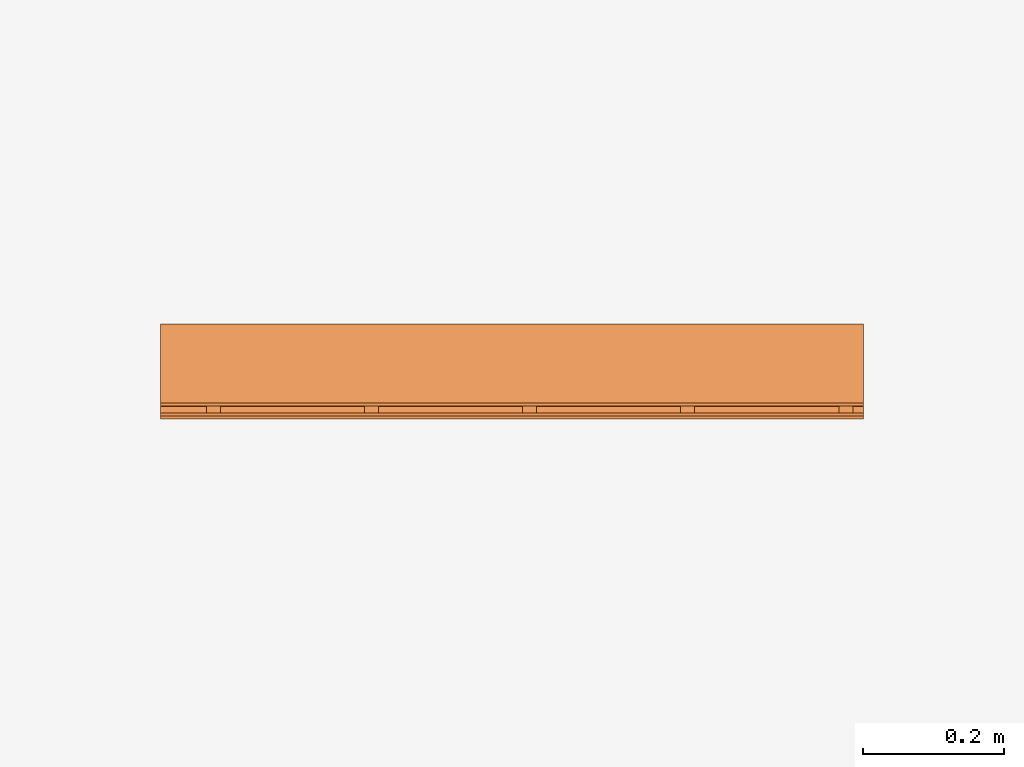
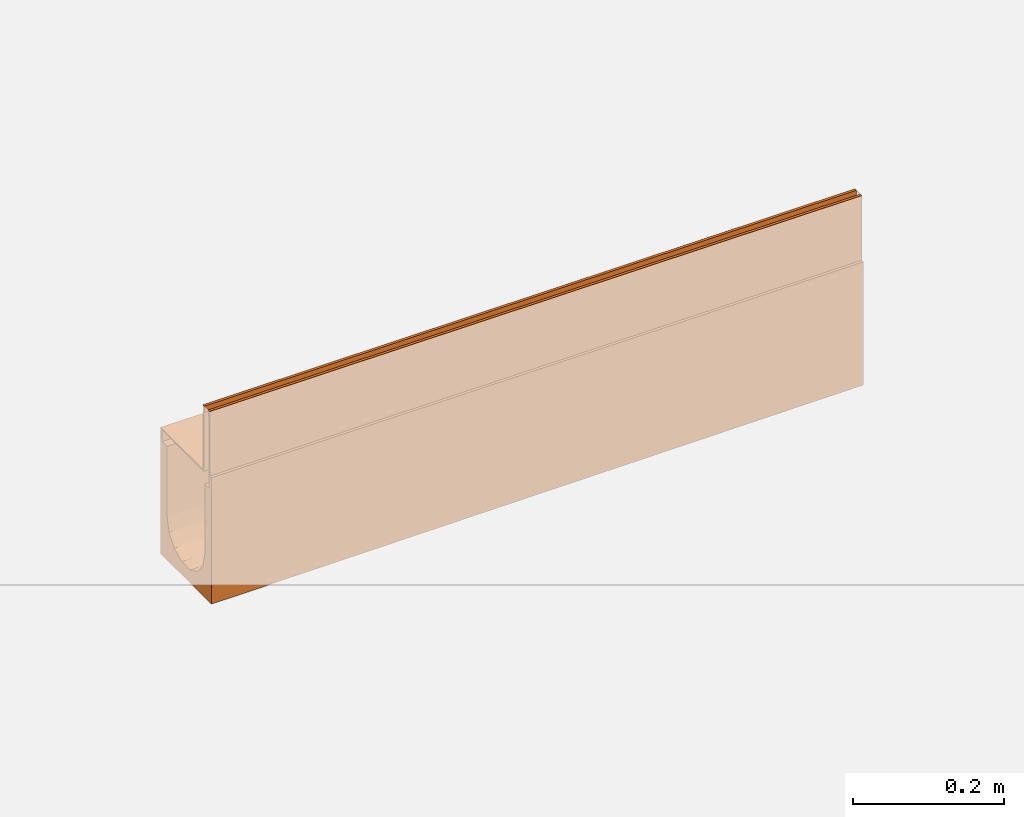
# One storey, part 2 of 2: 1 proxy.
"""IFC2X3 building model written with IfcOpenShell, lengths in millimetres."""

from ifc_helpers import new_model, entity, si_unit, converted_unit, direction, frame, origin, place, context, subcontext, project, spatial, faceted_brep, source, transform, mapped, material, material_list, element, save


model = new_model("IFC2X3")

# Units and contexts
model_context = context("Model", 3, precision=1e-06, world=origin(), true_north=direction((2.0, 6.12303176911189e-17, 1.0)))
context_of_model = context(None, 3, precision=1e-06, world=origin(), true_north=direction((2.0, 6.12303176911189e-17, 1.0)))
body_context = subcontext(model_context, "Body", "Model", "MODEL_VIEW")
ifc_project = project(units=[si_unit("LENGTHUNIT", "METRE", prefix="MILLI"), si_unit("AREAUNIT", "SQUARE_METRE", prefix="MILLI"), si_unit("VOLUMEUNIT", "CUBIC_METRE", prefix="MILLI"), converted_unit("PLANEANGLEUNIT", "DEGREE", entity("IfcRatioMeasure", 0.0174532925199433), si_unit("PLANEANGLEUNIT", "RADIAN"), dimensions=[0, 0, 0, 0, 0, 0, 0]), si_unit("TIMEUNIT", "SECOND")], contexts=[model_context, context_of_model])

# Site, building, storey
site_placement = place(None, origin())
site = spatial("IfcSite", under=ifc_project, at=site_placement, Name="Default", CompositionType="ELEMENT")
building_placement = place(site_placement, origin())
building = spatial("IfcBuilding", under=site, at=building_placement, CompositionType="ELEMENT")
storey_placement = place(building_placement, origin())
storey = spatial("IfcBuildingStorey", under=building, at=storey_placement, Name="Level 1", CompositionType="ELEMENT", Elevation=0.0)

# Proxy
ifc_material_1 = material(Name="Steel, Galvanized")
ifc_material_2 = material(Name="Vienite® Synthetic Resin Concrete")
ifc_material_list = material_list([ifc_material_1, ifc_material_2])
shared_shape = source(origin(), body_context, "Body", "Brep", [
    faceted_brep([(63.249999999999, 15.0, -107.0), (63.249999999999, 17.0, -109.0), (63.249999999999, 33.0, -109.0), (63.249999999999, 35.0, -107.0), (63.249999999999, 17.0, -123.499999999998), (63.249999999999, 15.0, -125.499999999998), (63.249999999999, 33.0, -123.499999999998), (63.249999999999, 35.0, -125.499999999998), (-61.250000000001, 15.0, -125.499999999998), (-61.250000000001, 17.0, -123.499999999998), (-61.250000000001, 33.0, -123.499999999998), (-61.250000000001, 35.0, -125.499999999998), (-61.250000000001, 17.0, -109.0), (-61.250000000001, 15.0, -107.0), (-61.250000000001, 33.0, -109.0), (-61.250000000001, 35.0, -107.0)], [[[0, 1, 2, 3]], [[4, 1, 0, 5]], [[3, 2, 6, 7]], [[6, 4, 5, 7]], [[8, 9, 10, 11]], [[12, 9, 8, 13]], [[11, 10, 14, 15]], [[14, 12, 13, 15]], [[5, 0, 13, 8]], [[7, 5, 8, 11]], [[3, 7, 11, 15]], [[0, 3, 15, 13]], [[1, 4, 9, 12]], [[14, 2, 1, 12]], [[6, 2, 14, 10]], [[9, 4, 6, 10]]]),
    faceted_brep([(-47.2500000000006, 0.0, -10.0), (-47.2500000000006, 0.0, -107.0), (-45.2500000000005, 0.0, -105.0), (-45.2500000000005, 0.0, 0.0), (-49.2500000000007, 0.0, 0.0), (-49.2500000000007, 0.0, -10.0), (63.2499999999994, 0.0, -107.0), (63.2499999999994, 0.0, -105.0), (-45.2500000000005, 1000.0, -105.0), (63.2499999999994, 1000.0, -105.0), (63.2499999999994, 1000.0, -107.0), (-47.2500000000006, 1000.0, -107.0), (-47.2500000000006, 1000.0, -10.0), (-45.2500000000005, 1000.0, 0.0), (-49.2500000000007, 1000.0, -10.0), (-49.2500000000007, 1000.0, 0.0)], [[[0, 1, 2, 3]], [[4, 5, 0, 3]], [[6, 7, 2, 1]], [[8, 9, 10, 11]], [[12, 13, 8, 11]], [[12, 14, 15, 13]], [[0, 5, 14, 12]], [[11, 1, 0, 12]], [[6, 1, 11, 10]], [[9, 7, 6, 10]], [[8, 2, 7, 9]], [[3, 2, 8, 13]], [[15, 4, 3, 13]], [[5, 4, 15, 14]]]),
    faceted_brep([(-59.2500000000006, 1000.0, 0.0), (-59.2500000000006, 1000.0, -10.0), (-61.2500000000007, 1000.0, -10.0), (-63.2500000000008, 1000.0, 0.0), (-63.2500000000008, 1000.0, -125.499999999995), (-61.2500000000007, 1000.0, -125.499999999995), (-61.2500000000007, 0.0, -10.0), (-63.2500000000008, 0.0, 0.0), (-63.2500000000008, 0.0, -125.499999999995), (-61.2500000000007, 0.0, -125.499999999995), (-59.2500000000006, 0.0, 0.0), (-59.2500000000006, 0.0, -10.0)], [[[0, 1, 2, 3]], [[4, 3, 2, 5]], [[6, 7, 8, 9]], [[10, 7, 6, 11]], [[9, 8, 4, 5]], [[6, 9, 5, 2]], [[11, 6, 2, 1]], [[10, 11, 1, 0]], [[3, 7, 10, 0]], [[4, 8, 7, 3]]]),
    faceted_brep([(63.2499999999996, 465.0, -107.0), (63.2499999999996, 467.0, -109.0), (63.2499999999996, 483.0, -109.0), (63.2499999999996, 485.0, -107.0), (63.2499999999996, 467.0, -123.499999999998), (63.2499999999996, 465.0, -125.499999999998), (63.2499999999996, 483.0, -123.499999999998), (63.2499999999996, 485.0, -125.499999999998), (-61.2500000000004, 465.0, -125.499999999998), (-61.2500000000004, 467.0, -123.499999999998), (-61.2500000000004, 483.0, -123.499999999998), (-61.2500000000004, 485.0, -125.499999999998), (-61.2500000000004, 467.0, -109.0), (-61.2500000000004, 465.0, -107.0), (-61.2500000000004, 483.0, -109.0), (-61.2500000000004, 485.0, -107.0)], [[[0, 1, 2, 3]], [[4, 1, 0, 5]], [[3, 2, 6, 7]], [[6, 4, 5, 7]], [[8, 9, 10, 11]], [[12, 9, 8, 13]], [[11, 10, 14, 15]], [[14, 12, 13, 15]], [[5, 0, 13, 8]], [[7, 5, 8, 11]], [[3, 7, 11, 15]], [[0, 3, 15, 13]], [[1, 4, 9, 12]], [[2, 1, 12, 14]], [[6, 2, 14, 10]], [[4, 6, 10, 9]]]),
    faceted_brep([(63.2499999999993, 240.0, -107.0), (63.2499999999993, 242.0, -109.0), (63.2499999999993, 258.0, -109.0), (63.2499999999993, 260.0, -107.0), (63.2499999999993, 242.0, -123.499999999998), (63.2499999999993, 240.0, -125.499999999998), (63.2499999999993, 258.0, -123.499999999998), (63.2499999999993, 260.0, -125.499999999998), (-61.2500000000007, 240.0, -125.499999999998), (-61.2500000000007, 242.0, -123.499999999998), (-61.2500000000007, 258.0, -123.499999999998), (-61.2500000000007, 260.0, -125.499999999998), (-61.2500000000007, 242.0, -109.0), (-61.2500000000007, 240.0, -107.0), (-61.2500000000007, 258.0, -109.0), (-61.2500000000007, 260.0, -107.0)], [[[0, 1, 2, 3]], [[4, 1, 0, 5]], [[3, 2, 6, 7]], [[6, 4, 5, 7]], [[8, 9, 10, 11]], [[12, 9, 8, 13]], [[11, 10, 14, 15]], [[14, 12, 13, 15]], [[5, 0, 13, 8]], [[7, 5, 8, 11]], [[3, 7, 11, 15]], [[0, 3, 15, 13]], [[1, 4, 9, 12]], [[2, 1, 12, 14]], [[6, 2, 14, 10]], [[4, 6, 10, 9]]]),
    faceted_brep([(63.2500000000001, 915.0, -107.0), (63.2500000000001, 917.0, -109.0), (63.2500000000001, 933.0, -109.0), (63.2500000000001, 935.0, -107.0), (63.2500000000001, 917.0, -123.499999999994), (63.2500000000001, 915.0, -125.499999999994), (63.2500000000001, 933.0, -123.499999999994), (63.2500000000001, 935.0, -125.499999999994), (-61.2499999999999, 915.0, -125.499999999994), (-61.2499999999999, 917.0, -123.499999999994), (-61.2499999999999, 933.0, -123.499999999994), (-61.2499999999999, 935.0, -125.499999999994), (-61.2499999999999, 917.0, -109.0), (-61.2499999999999, 915.0, -107.0), (-61.2499999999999, 933.0, -109.0), (-61.2499999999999, 935.0, -107.0)], [[[0, 1, 2, 3]], [[4, 1, 0, 5]], [[3, 2, 6, 7]], [[6, 4, 5, 7]], [[8, 9, 10, 11]], [[12, 9, 8, 13]], [[11, 10, 14, 15]], [[14, 12, 13, 15]], [[5, 0, 13, 8]], [[11, 7, 5, 8]], [[3, 7, 11, 15]], [[13, 0, 3, 15]], [[1, 4, 9, 12]], [[2, 1, 12, 14]], [[6, 2, 14, 10]], [[4, 6, 10, 9]]]),
    faceted_brep([(63.2499999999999, 690.0, -107.0), (63.2499999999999, 692.0, -109.0), (63.2499999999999, 708.0, -109.0), (63.2499999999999, 710.0, -107.0), (63.2499999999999, 692.0, -123.499999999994), (63.2499999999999, 690.0, -125.499999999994), (63.2499999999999, 708.0, -123.499999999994), (63.2499999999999, 710.0, -125.499999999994), (-61.2500000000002, 690.0, -125.499999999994), (-61.2500000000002, 692.0, -123.499999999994), (-61.2500000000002, 708.0, -123.499999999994), (-61.2500000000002, 710.0, -125.499999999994), (-61.2500000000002, 692.0, -109.0), (-61.2500000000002, 690.0, -107.0), (-61.2500000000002, 708.0, -109.0), (-61.2500000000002, 710.0, -107.0)], [[[0, 1, 2, 3]], [[4, 1, 0, 5]], [[3, 2, 6, 7]], [[6, 4, 5, 7]], [[8, 9, 10, 11]], [[12, 9, 8, 13]], [[11, 10, 14, 15]], [[14, 12, 13, 15]], [[5, 0, 13, 8]], [[11, 7, 5, 8]], [[3, 7, 11, 15]], [[13, 0, 3, 15]], [[1, 4, 9, 12]], [[2, 1, 12, 14]], [[6, 2, 14, 10]], [[4, 6, 10, 9]]]),
    faceted_brep([(-67.4999999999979, 1000.0, -105.0), (-63.2499999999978, 1000.0, -105.0), (-63.2499999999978, 1000.0, -125.500000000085), (-67.4999999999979, 1000.0, -310.0), (-50.0, 1000.0, -125.500000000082), (-50.0, 1000.0, -240.0), (-47.5242216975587, 1000.0, -250.847093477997), (-45.0484433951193, 1000.0, -261.694186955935), (-31.1744900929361, 1000.0, -279.091574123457), (-21.1502683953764, 1000.0, -283.918984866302), (-11.1260466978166, 1000.0, -288.746395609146), (-38.1114667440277, 1000.0, -270.392880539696), (0.0, 1000.0, -288.746395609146), (11.126046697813, 1000.0, -288.746395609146), (50.0, 1000.0, -240.0), (50.0, 1000.0, -125.500000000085), (63.249999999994, 1000.0, -125.500000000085), (67.500000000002, 1000.0, -310.0), (63.249999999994, 1000.0, -105.0), (67.500000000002, 1000.0, -105.0), (21.1502683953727, 1000.0, -283.918984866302), (31.1744900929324, 1000.0, -279.091574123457), (45.0484433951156, 1000.0, -261.694186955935), (47.5242216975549, 1000.0, -250.847093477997), (38.111466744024, 1000.0, -270.392880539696), (-67.5000000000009, 0.0, -305.0), (-45.0484433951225, 0.0, -256.694186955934), (-46.5542373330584, 0.0, -250.096872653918), (-50.0, 0.0, -235.0), (-31.1744900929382, 0.0, -274.091574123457), (-38.1114667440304, 0.0, -265.392880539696), (-11.1260466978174, 0.0, -283.746395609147), (-21.1502683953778, 0.0, -278.918984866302), (11.1260466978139, 0.0, -283.746395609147), (0.0, 0.0, -283.746395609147), (67.4999999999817, 0.0, -305.0), (-63.2499999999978, 0.0, -125.500000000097), (-63.2499999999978, 0.0, -105.0), (-67.5000000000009, 0.0, -105.0), (-50.0, 0.0, -125.500000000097), (31.1744900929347, 0.0, -274.091574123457), (21.1502683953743, 0.0, -278.918984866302), (50.0, 0.0, -235.0), (46.5542371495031, 0.0, -250.09687345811), (45.0484433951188, 0.0, -256.694186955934), (38.1114667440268, 0.0, -265.392880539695), (63.2500000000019, 0.0, -125.500000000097), (50.0, 0.0, -125.500000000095), (67.4999999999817, 0.0, -105.0), (63.2500000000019, 0.0, -105.0), (-50.0, 250.000013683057, -236.250000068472), (-35.5430016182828, 477.55479373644, -272.554449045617), (-39.0915746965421, 301.904841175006, -267.684013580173), (-30.4065854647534, 315.866317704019, -276.271138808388), (39.0915767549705, 653.204744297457, -269.440510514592), (43.1307072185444, 488.864082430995, -262.737443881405), (44.2106003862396, 635.514288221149, -261.531860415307), (-39.0915747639, 653.204746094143, -269.440513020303), (-29.696093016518, 646.565597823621, -278.458964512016), (-47.3876306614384, 374.999991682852, -252.825312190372), (-48.89171460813, 518.387005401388, -248.060948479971), (-2.91588081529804e-06, 301.904832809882, -286.509524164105), (-10.9684170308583, 305.042894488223, -285.30732008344), (-5.5982252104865, 150.952413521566, -285.440372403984), (12.0741057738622, 315.866299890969, -285.099594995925), (5.33371147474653, 477.554791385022, -287.102475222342), (35.3553400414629, 150.952387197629, -271.110100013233), (-41.8233658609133, 146.584549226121, -263.133763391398), (42.1728888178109, 829.135588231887, -266.005451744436), (47.0016510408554, 843.632235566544, -256.272333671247), (-50.0, 749.999986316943, -238.749999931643), (-47.0016499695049, 843.632222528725, -256.272336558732), (-21.6941880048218, 209.065851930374, -281.093772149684), (-35.3553394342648, 150.952420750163, -271.110100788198), (-34.4525207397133, 816.145858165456, -275.316399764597), (-25.646806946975, 806.214865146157, -281.952412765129), (21.6941814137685, 500.0, -282.548446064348), (29.6960925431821, 646.565642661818, -278.458965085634), (16.1554098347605, 747.818208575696, -286.057192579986), (-3.27550310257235e-06, 653.204751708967, -288.2660237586), (-8.54111809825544, 477.617179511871, -286.653178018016), (21.6941852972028, 209.065841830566, -281.093773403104), (-46.4228776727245, 186.188946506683, -254.502870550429), (34.4525215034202, 816.145876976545, -275.316399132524), (49.2918467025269, 134.881431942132, -244.059742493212), (47.3876313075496, 374.999975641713, -252.825310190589), (46.4228780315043, 186.188933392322, -254.502869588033), (-50.0, 499.999972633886, -237.499999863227), (39.0915763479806, 301.904795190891, -267.684011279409), (41.8233665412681, 146.584526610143, -263.133762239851), (25.6468067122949, 806.214870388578, -281.952412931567), (-5.38536224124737, 826.602379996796, -288.842144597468), (-16.1554121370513, 747.81816965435, -286.05719159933), (35.5430053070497, 477.554758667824, -272.554445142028), (-42.1728873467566, 829.135597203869, -266.005454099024), (5.59822218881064, 150.952412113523, -285.440372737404), (30.4065855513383, 315.866251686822, -276.271138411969), (-43.1307054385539, 488.864104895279, -262.737447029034), (-44.2105988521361, 635.514296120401, -261.531863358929), (-49.2918465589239, 134.881438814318, -244.059743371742), (-47.7236140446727, 671.453379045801, -253.272248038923), (48.8917149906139, 518.386993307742, -248.060946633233), (50.0, 250.000027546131, -236.250000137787), (50.0, 499.999944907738, -237.499999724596), (50.0, 749.999972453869, -238.749999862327), (47.7236147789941, 671.453375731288, -253.272245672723), (-22.9273943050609, 354.532924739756, -281.206149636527), (-21.6941890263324, 500.0, -282.548442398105), (5.80423086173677, 807.818012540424, -288.701056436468), (22.9273914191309, 354.532889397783, -281.206150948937)], [[[0, 1, 2, 3]], [[2, 4, 5, 3]], [[3, 5, 6, 7]], [[3, 8, 9, 10]], [[3, 7, 11, 8]], [[3, 10, 12, 13]], [[14, 15, 16, 17]], [[16, 18, 19, 17]], [[17, 13, 20, 21]], [[17, 22, 23, 14]], [[17, 21, 24, 22]], [[13, 17, 3]], [[25, 26, 27, 28]], [[25, 29, 30, 26]], [[25, 31, 32, 29]], [[33, 34, 25, 35]], [[36, 37, 38, 25]], [[28, 39, 36, 25]], [[35, 40, 41, 33]], [[35, 42, 43, 44]], [[35, 44, 45, 40]], [[46, 47, 42, 35]], [[48, 49, 46, 35]], [[1, 37, 36, 2]], [[0, 38, 37, 1]], [[0, 3, 25, 38]], [[3, 17, 35, 25]], [[19, 48, 35, 17]], [[18, 49, 48, 19]], [[16, 46, 49, 18]], [[16, 15, 47, 46]], [[4, 39, 28, 50]], [[2, 36, 39, 4]], [[51, 52, 53]], [[54, 55, 56]], [[57, 51, 58]], [[59, 60, 50]], [[61, 62, 63]], [[61, 64, 65]], [[40, 45, 66]], [[30, 67, 26]], [[68, 69, 22]], [[70, 71, 6]], [[29, 72, 73]], [[74, 75, 8]], [[76, 77, 78]], [[65, 79, 80]], [[66, 81, 40]], [[27, 26, 82]], [[24, 83, 68]], [[84, 85, 86]], [[87, 50, 60, 70]], [[88, 66, 89]], [[58, 75, 74]], [[83, 90, 77]], [[91, 10, 92]], [[76, 93, 77]], [[54, 93, 55]], [[94, 57, 74]], [[30, 73, 67]], [[63, 72, 31]], [[61, 63, 95]], [[72, 53, 73]], [[45, 89, 66]], [[93, 76, 96]], [[97, 98, 60]], [[27, 82, 99]], [[52, 51, 97]], [[98, 94, 71]], [[98, 71, 100]], [[101, 102, 103, 104]], [[102, 101, 85]], [[84, 86, 43]], [[104, 69, 105]], [[69, 68, 56]], [[28, 27, 99]], [[52, 59, 82]], [[99, 59, 50]], [[72, 29, 32, 31]], [[29, 73, 30]], [[67, 52, 82]], [[95, 34, 33]], [[73, 53, 52]], [[72, 106, 53]], [[107, 58, 51]], [[107, 51, 53]], [[97, 51, 57]], [[58, 107, 92]], [[74, 57, 58]], [[80, 92, 107]], [[79, 108, 91]], [[98, 97, 57]], [[52, 97, 59]], [[52, 67, 73]], [[26, 67, 82]], [[92, 10, 9]], [[74, 11, 94]], [[92, 9, 75]], [[94, 7, 71]], [[75, 58, 92]], [[59, 99, 82]], [[28, 99, 50]], [[11, 74, 8]], [[11, 7, 94]], [[8, 75, 9]], [[70, 6, 5]], [[71, 70, 100]], [[71, 7, 6]], [[43, 86, 44]], [[42, 102, 84]], [[88, 86, 85]], [[42, 84, 43]], [[85, 84, 102]], [[81, 66, 96]], [[86, 89, 44]], [[81, 33, 41, 40]], [[96, 66, 88]], [[95, 64, 61]], [[93, 96, 88]], [[109, 81, 96]], [[55, 88, 85]], [[93, 54, 77]], [[54, 83, 77]], [[90, 78, 77]], [[12, 91, 108]], [[65, 78, 79]], [[88, 55, 93]], [[55, 85, 101]], [[44, 89, 45]], [[88, 89, 86]], [[68, 83, 54]], [[20, 90, 21]], [[68, 54, 56]], [[24, 21, 83]], [[78, 20, 13]], [[68, 22, 24]], [[21, 90, 83]], [[20, 78, 90]], [[101, 104, 105]], [[104, 23, 69]], [[23, 104, 14]], [[91, 92, 79]], [[23, 22, 69]], [[63, 31, 34]], [[33, 81, 95]], [[64, 95, 81]], [[109, 64, 81]], [[76, 78, 65]], [[76, 65, 64]], [[79, 92, 80]], [[107, 106, 62]], [[61, 65, 80]], [[95, 63, 34]], [[61, 80, 62]], [[107, 62, 80]], [[72, 63, 62]], [[97, 60, 59]], [[70, 60, 100]], [[101, 105, 56]], [[62, 106, 72]], [[107, 53, 106]], [[94, 98, 57]], [[60, 98, 100]], [[96, 76, 109]], [[64, 109, 76]], [[101, 56, 55]], [[56, 105, 69]], [[108, 79, 78]], [[10, 91, 12]], [[78, 13, 108]], [[12, 108, 13]], [[15, 14, 104, 103]], [[47, 15, 42]], [[25, 34, 31]], [[4, 50, 87, 70]], [[4, 70, 5]], [[15, 103, 102, 42]]]),
])
proxy_placement = place(storey_placement, frame((143.656586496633, 99.9218925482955, 0.0), z_axis=(0.0, 0.0, 1.0), x_axis=(0.0, 1.0, 0.0)))
element("IfcBuildingElementProxy", 1, at=proxy_placement, inside=storey, material=ifc_material_list, Name="Civil-Drainage-Channel-ACO-MultiDrain-M100D-Brickslot-Channel-System:23011 - No 11 Sloping Channel - 1000mm LG - Invert Depth 180/185mm:23011 - No 11 Sloping Channel - 1000mm LG - Invert Depth 180/185mm", ObjectType="23011 - No 11 Sloping Channel - 1000mm LG - Invert Depth 180/185mm", CompositionType="ELEMENT", context=body_context, shape_type="MappedRepresentation", body=[
    mapped(shared_shape, transform((0.0, 0.0, 0.0), scale=1.0)),
])

save(model, "model.ifc")
